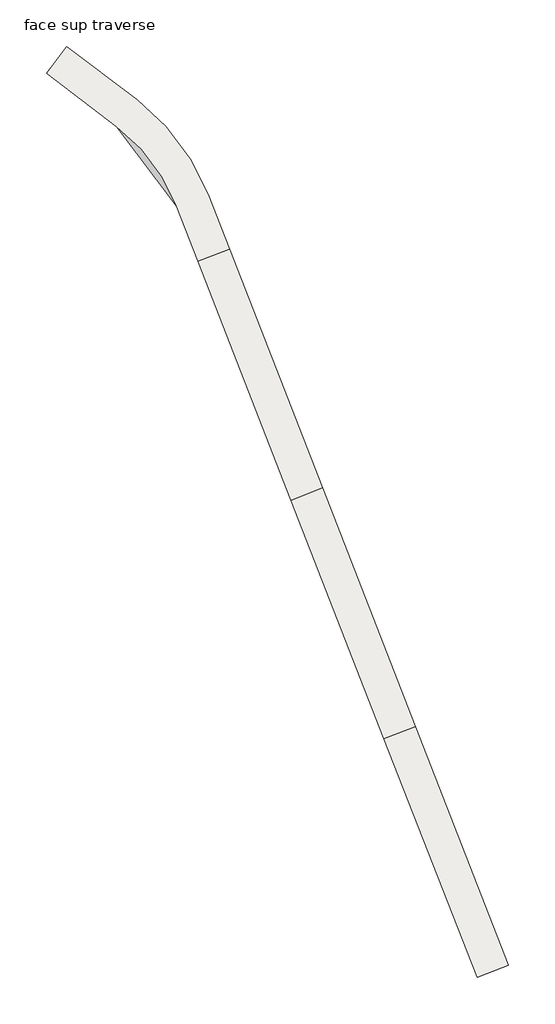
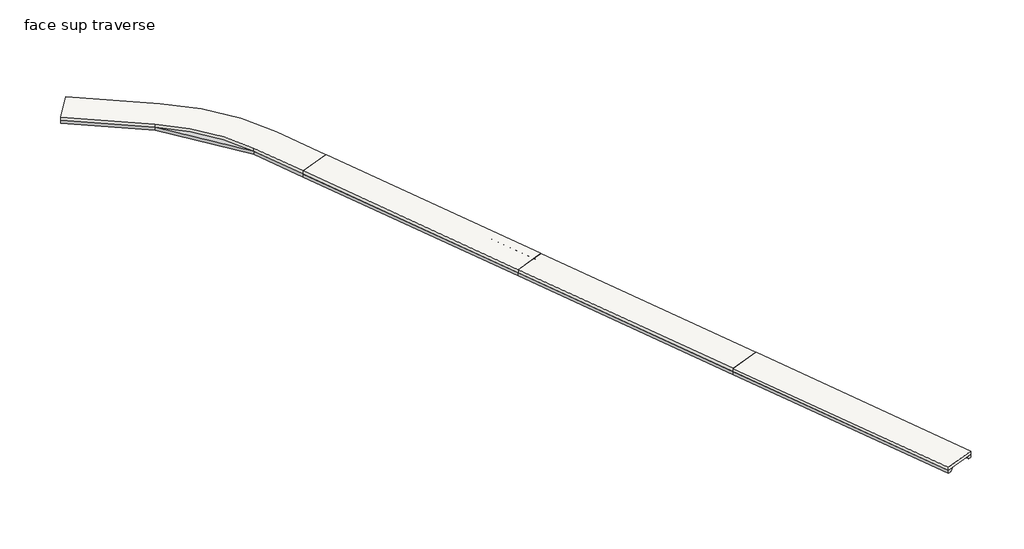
# One storey: 12 proxies, 4 slabs.
"""IFC4 building model written with IfcOpenShell, lengths in millimetres."""

import ifcopenshell
import ifcopenshell.guid

model = None  # the IFC model being written
_history = None  # IfcOwnerHistory: only IFC2X3 demands one
_inside = {}  # id of a spatial element -> (the spatial element, [elements in it])
_under = {}  # id of a project, library or spatial element -> (it, [spatial elements below it])
_declared = {}  # id of a project -> (the project, [libraries it declares])
_typed = {}  # id of a type object -> (the type object, [elements of that type])
_made_of = {}  # id of a material, layer set ... -> (it, [elements and type objects made of it])


def new_model(schema):
    """Start an empty IFC model of exactly this schema.

    Asked for "IFC4X3", IfcOpenShell would pick the latest addendum, in which some entities
    have other attributes; the version numbers below select the first issue.
    IFC2X3 requires an IfcOwnerHistory on every rooted entity: one is made here for all.
    """
    global model, _history
    if schema == "IFC4X3":
        model = ifcopenshell.file(schema_version=(4, 3, 0, 0))
    else:
        model = ifcopenshell.file(schema=schema)
    _inside.clear()
    _under.clear()
    _declared.clear()
    _typed.clear()
    _made_of.clear()
    _history = None
    if model.schema == "IFC2X3":
        org = make("IfcOrganization", Name="unknown")
        user = make(
            "IfcPersonAndOrganization",
            ThePerson=make("IfcPerson", FamilyName="unknown"),
            TheOrganization=org,
        )
        app = make(
            "IfcApplication",
            ApplicationDeveloper=org,
            Version="unknown",
            ApplicationFullName="unknown",
            ApplicationIdentifier="unknown",
        )
        _history = make(
            "IfcOwnerHistory",
            OwningUser=user,
            OwningApplication=app,
            ChangeAction="ADDED",
            CreationDate=0,
        )
    return model


def make(cls, **values):
    """One entity of the class cls with the attributes given. An attribute that is None is left unset."""
    return model.create_entity(
        cls, **{name: value for name, value in values.items() if value is not None}
    )


def rooted(cls, **values):
    """An entity with a GlobalId (a new one), such as an element, a storey or a relation."""
    return make(cls, GlobalId=ifcopenshell.guid.new(), OwnerHistory=_history, **values)


def si_unit(unit_type, name, prefix=None):
    """IfcSIUnit, for example si_unit("LENGTHUNIT", "METRE", prefix="MILLI")."""
    return make("IfcSIUnit", UnitType=unit_type, Prefix=prefix, Name=name)


def assignment(units):
    """IfcUnitAssignment: the units of a project."""
    return None if units is None else make("IfcUnitAssignment", Units=units)


def point(xyz):
    """IfcCartesianPoint."""
    return None if xyz is None else make("IfcCartesianPoint", Coordinates=xyz)


def direction(xyz):
    """IfcDirection."""
    return None if xyz is None else make("IfcDirection", DirectionRatios=xyz)


def frame(location, z_axis=None, x_axis=None):
    """IfcAxis2Placement3D, a coordinate frame: its origin and axes. An axis left out is left unset."""
    return make(
        "IfcAxis2Placement3D",
        Location=point(location),
        Axis=direction(z_axis),
        RefDirection=direction(x_axis),
    )


def frame_2d(location, x_axis=None):
    """IfcAxis2Placement2D, a coordinate frame in the plane: its origin and x axis."""
    return make(
        "IfcAxis2Placement2D", Location=point(location), RefDirection=direction(x_axis)
    )


def origin():
    """The frame at (0, 0, 0) with its axes left unset."""
    return frame((0.0, 0.0, 0.0))


def place(relative_to, where):
    """IfcLocalPlacement: puts the frame where relative to a parent placement (None: the world)."""
    return make(
        "IfcLocalPlacement", PlacementRelTo=relative_to, RelativePlacement=where
    )


def context(
    kind, dimensions, precision=None, world=None, true_north=None, identifier=None
):
    """IfcGeometricRepresentationContext, for example the 3D "Model" context."""
    return make(
        "IfcGeometricRepresentationContext",
        ContextIdentifier=identifier,
        ContextType=kind,
        CoordinateSpaceDimension=dimensions,
        Precision=precision,
        WorldCoordinateSystem=world,
        TrueNorth=true_north,
    )


def project(units=None, contexts=None):
    """IfcProject with its units and contexts."""
    return rooted(
        "IfcProject",
        Name="project",
        RepresentationContexts=contexts,
        UnitsInContext=assignment(units),
    )


def spatial(cls, under=None, at=None, **own):
    """A site, building, storey or space (cls), placed at a placement, below another one or the project."""
    s = rooted(cls, ObjectPlacement=at, **own)
    if under is not None:
        _under.setdefault(under.id(), (under, []))[1].append(s)
    return s


def polyline(points):
    """IfcPolyline through the points."""
    return make("IfcPolyline", Points=[point(p) for p in points])


def circle_curve(where, radius):
    """IfcCircle in the frame where."""
    return make("IfcCircle", Position=where, Radius=radius)


def trimmed(basis, trim1, trim2, sense, master):
    """IfcTrimmedCurve: the piece of a basis curve between two trims."""
    return make(
        "IfcTrimmedCurve",
        BasisCurve=basis,
        Trim1=trim1,
        Trim2=trim2,
        SenseAgreement=sense,
        MasterRepresentation=master,
    )


def segment(curve, same_sense, transition):
    """IfcCompositeCurveSegment."""
    return make(
        "IfcCompositeCurveSegment",
        Transition=transition,
        SameSense=same_sense,
        ParentCurve=curve,
    )


def composite_curve(segments, self_intersect=None):
    """IfcCompositeCurve: segments joined end to end."""
    return make("IfcCompositeCurve", Segments=segments, SelfIntersect=self_intersect)


def outline(outer, holes=None, kind="AREA"):
    """IfcArbitraryClosedProfileDef: a profile drawn as a closed curve; with holes, ...WithVoids."""
    if holes is None:
        return make("IfcArbitraryClosedProfileDef", ProfileType=kind, OuterCurve=outer)
    return make(
        "IfcArbitraryProfileDefWithVoids",
        ProfileType=kind,
        OuterCurve=outer,
        InnerCurves=holes,
    )


def extrude(swept, where, along, depth):
    """IfcExtrudedAreaSolid: the profile swept, set in the frame where, extruded along a direction by depth."""
    return make(
        "IfcExtrudedAreaSolid",
        SweptArea=swept,
        Position=where,
        ExtrudedDirection=direction(along),
        Depth=depth,
    )


def shape(context_of_items, identifier, shape_type, items):
    """IfcShapeRepresentation: the items that make up one representation, for example the "Body"."""
    return make(
        "IfcShapeRepresentation",
        ContextOfItems=context_of_items,
        RepresentationIdentifier=identifier,
        RepresentationType=shape_type,
        Items=items,
    )


def source(mapping_origin, context_of_items, identifier, shape_type, items):
    """IfcRepresentationMap: a shape defined once, which mapped items show again and again."""
    return make(
        "IfcRepresentationMap",
        MappingOrigin=mapping_origin,
        MappedRepresentation=shape(context_of_items, identifier, shape_type, items),
    )


def transform(
    local_origin,
    x_axis=None,
    y_axis=None,
    z_axis=None,
    scale=None,
    scale2=None,
    scale3=None,
    uniform=True,
):
    """IfcCartesianTransformationOperator3D, or its non-uniform kind. x_axis, y_axis, z_axis: its Axis1, 2, 3."""
    if uniform:
        return make(
            "IfcCartesianTransformationOperator3D",
            Axis1=direction(x_axis),
            Axis2=direction(y_axis),
            LocalOrigin=point(local_origin),
            Scale=scale,
            Axis3=direction(z_axis),
        )
    return make(
        "IfcCartesianTransformationOperator3DnonUniform",
        Axis1=direction(x_axis),
        Axis2=direction(y_axis),
        LocalOrigin=point(local_origin),
        Scale=scale,
        Axis3=direction(z_axis),
        Scale2=scale2,
        Scale3=scale3,
    )


def mapped(mapping_source, mapping_target):
    """IfcMappedItem: shows the shape of a source again, moved by a transform."""
    return make(
        "IfcMappedItem", MappingSource=mapping_source, MappingTarget=mapping_target
    )


def made_of(thing, what):
    """Note that an element or type object is made of a material, layer set ...; save() writes the relation."""
    if what is not None:
        _made_of.setdefault(what.id(), (what, []))[1].append(thing)
    return thing


def element(
    cls,
    number,
    at=None,
    inside=None,
    cuts=None,
    type_object=None,
    material=None,
    context=None,
    identifier="Body",
    shape_type=None,
    held_by="IfcProductDefinitionShape",
    body=None,
    shapes=None,
    **own,
):
    """One element of the class cls, such as IfcWall. Its Tag is "e" and its number.

    at: its placement. inside: the storey or other place that contains it. cuts: it is an
    opening in that element (IfcRelVoidsElement). A single representation is given by context,
    identifier, shape_type and body (its items); several are given by shapes. held_by: the class
    of the entity that holds the representations. save() writes the other relations.
    """
    e = rooted(cls, Tag="e%d" % number, ObjectPlacement=at, **own)
    if body is not None:
        shapes = [shape(context, identifier, shape_type, body)]
    if shapes is not None:
        e.Representation = make(held_by, Representations=shapes)
    if inside is not None:
        _inside.setdefault(inside.id(), (inside, []))[1].append(e)
    if cuts is not None:
        rooted(
            "IfcRelVoidsElement", RelatingBuildingElement=cuts, RelatedOpeningElement=e
        )
    if type_object is not None:
        _typed.setdefault(type_object.id(), (type_object, []))[1].append(e)
    return made_of(e, material)


def aggregate(whole, parts):
    """IfcRelAggregates: a whole, such as a stair, and the parts it consists of."""
    return rooted("IfcRelAggregates", RelatingObject=whole, RelatedObjects=parts)


def save(model, path):
    """Write the relations noted so far, then the file.

    IfcRelAggregates (storeys below a building ...), IfcRelContainedInSpatialStructure (elements
    in a storey), IfcRelDefinesByType, IfcRelAssociatesMaterial and IfcRelDeclares: one each for
    every whole, place, type object, material and project.
    """
    for whole, parts in _under.values():
        aggregate(whole, parts)
    for where, things in _inside.values():
        rooted(
            "IfcRelContainedInSpatialStructure",
            RelatedElements=things,
            RelatingStructure=where,
        )
    for kind, things in _typed.values():
        rooted("IfcRelDefinesByType", RelatedObjects=things, RelatingType=kind)
    for what, things in _made_of.values():
        rooted("IfcRelAssociatesMaterial", RelatedObjects=things, RelatingMaterial=what)
    for by, libraries in _declared.values():
        rooted("IfcRelDeclares", RelatingContext=by, RelatedDefinitions=libraries)
    model.write(path)


def plane_surface(at):
    """IfcPlane: the flat surface through the origin of the frame at, square to its z axis."""
    return make("IfcPlane", Position=at)


def cylinder_surface(at, radius):
    """IfcCylindricalSurface: all points at the distance radius from the z axis of the frame at."""
    return make("IfcCylindricalSurface", Position=at, Radius=radius)


def revolved_surface(curve, axis_point, axis_direction):
    """IfcSurfaceOfRevolution: the curve turned about the line through axis_point along axis_direction."""
    return make(
        "IfcSurfaceOfRevolution",
        SweptCurve=make("IfcArbitraryOpenProfileDef", ProfileType="CURVE", Curve=curve),
        AxisPosition=make("IfcAxis1Placement", Location=point(axis_point), Axis=direction(axis_direction)),
    )


def advanced_brep(points, edges, surfaces, faces):
    """IfcAdvancedBrep: a solid bounded by faces that lie on surfaces and meet in shared edges.

    An edge is (start, end): straight between two places in points (the first is 0);
    or (start, end, curve); or (start, end, curve, False) where it runs against its curve.
    A face is (place in surfaces, loops), or (place, loops, False) where it looks against
    its surface's normal. A loop lists edges by number (the first is 1), with a minus sign
    where the edge is run from its end to its start. The first loop is the outer one.
    """
    corners = [point(p) for p in points]
    vertices = [make("IfcVertexPoint", VertexGeometry=c) for c in corners]
    made = []
    for start, end, *more in edges:
        made.append(
            make(
                "IfcEdgeCurve",
                EdgeStart=vertices[start],
                EdgeEnd=vertices[end],
                EdgeGeometry=more[0] if more else make("IfcPolyline", Points=[corners[start], corners[end]]),
                SameSense=more[1] if len(more) > 1 else True,
            )
        )
    hull = []
    for where, loops, *sense in faces:
        bounds = []
        for j, loop in enumerate(loops):
            ring = [make("IfcOrientedEdge", EdgeElement=made[abs(k) - 1], Orientation=k > 0) for k in loop]
            bounds.append(
                make(
                    "IfcFaceOuterBound" if j == 0 else "IfcFaceBound",
                    Bound=make("IfcEdgeLoop", EdgeList=ring),
                    Orientation=True,
                )
            )
        hull.append(make("IfcAdvancedFace", Bounds=bounds, FaceSurface=surfaces[where], SameSense=sense[0] if sense else True))
    return make("IfcAdvancedBrep", Outer=make("IfcClosedShell", CfsFaces=hull))


def generic_models_11dc793a(model_context):
    return source(origin(), model_context, "Body", "AdvancedBrep", [
        advanced_brep(
        [(18325.0, 0.0, -350.0), (18325.0, 0.0, -700.0), (18675.0, 0.0, -700.0), (19025.0, 0.0, -350.0), (15634.3154742, 9558.9646225, -350.0), (15634.3154742, 9558.9646225, -700.0), (15932.924501, 9741.5369345, -700.0), (16231.5335278, 9924.1092466, -350.0)],
        [
            (0, 1),
            (1, 2),
            (2, 3),
            (3, 0),
            (0, 4, circle_curve(frame((0.0, 0.0, -350.0), z_axis=(0.0, 0.0, 1.0), x_axis=(1.0, 0.0, 0.0)), 18325.0)),
            (4, 5),
            (5, 1, circle_curve(frame((0.0, 0.0, -700.0), z_axis=(0.0, 0.0, -1.0), x_axis=(1.0, 0.0, 0.0)), 18325.0)),
            (5, 6),
            (6, 2, circle_curve(frame((0.0, 0.0, -700.0), z_axis=(0.0, 0.0, -1.0), x_axis=(1.0, 0.0, 0.0)), 18675.0)),
            (6, 7),
            (7, 3, circle_curve(frame((0.0, 0.0, -350.0), z_axis=(0.0, 0.0, -1.0), x_axis=(1.0, 0.0, 0.0)), 19025.0)),
            (7, 4),
        ],
        [
            plane_surface(frame((0.0, 0.0, 1500.0), z_axis=(0.0, -1.0, 0.0), x_axis=(1.0, 0.0, 0.0))),
            revolved_surface(polyline([(18325.0, 0.0, -350.0), (18325.0, 0.0, -700.0)]), (0.0, 0.0, 1500.0), (0.0, 0.0, 1.0)),
            plane_surface(frame((0.0, 0.0, -700.0), z_axis=(0.0, 0.0, -1.0), x_axis=(1.0, 0.0, 0.0))),
            revolved_surface(polyline([(18675.0, 0.0, -700.0), (19025.0, 0.0, -350.0)]), (0.0, 0.0, 1500.0), (0.0, 0.0, 1.0)),
            plane_surface(frame((0.0, 0.0, -350.0), z_axis=(0.0, 0.0, 1.0), x_axis=(1.0, 0.0, 0.0))),
            plane_surface(frame((0.0, 0.0, -350.0), z_axis=(-0.5216351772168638, 0.853168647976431, 0.0), x_axis=(0.0, 0.0, -1.0))),
        ],
        [
            (0, [[1, 2, 3, 4]]),
            (1, [[-1, 5, 6, 7]]),
            (2, [[-2, -7, 8, 9]]),
            (3, [[-3, -9, 10, 11]]),
            (4, [[-4, -11, 12, -5]]),
            (5, [[-6, -12, -10, -8]]),
        ],
    ),
    ])


def generic_models_7486e4d8(model_context):
    return source(origin(), model_context, "Body", "AdvancedBrep", [
        advanced_brep(
        [(21665.0, 0.0, -350.0), (20965.0, 0.0, -350.0), (21315.0, 0.0, -700.0), (21665.0, 0.0, -700.0), (18483.8987584, 11301.2261144, -700.0), (18483.8987584, 11301.2261144, -350.0), (18185.2897316, 11118.6538024, -700.0), (17886.6807048, 10936.0814904, -350.0)],
        [
            (0, 1),
            (1, 2),
            (2, 3),
            (3, 0),
            (3, 4, circle_curve(frame((0.0, 0.0, -700.0), z_axis=(0.0, 0.0, 1.0), x_axis=(1.0, 0.0, 0.0)), 21665.0)),
            (4, 5),
            (5, 0, circle_curve(frame((0.0, 0.0, -350.0), z_axis=(0.0, 0.0, -1.0), x_axis=(1.0, 0.0, 0.0)), 21665.0)),
            (2, 6, circle_curve(frame((0.0, 0.0, -700.0), z_axis=(0.0, 0.0, 1.0), x_axis=(1.0, 0.0, 0.0)), 21315.0)),
            (6, 4),
            (1, 7, circle_curve(frame((0.0, 0.0, -350.0), z_axis=(0.0, 0.0, 1.0), x_axis=(1.0, 0.0, 0.0)), 20965.0)),
            (7, 6),
            (5, 7),
        ],
        [
            plane_surface(frame((0.0, 0.0, 1500.0), z_axis=(0.0, -1.0, 0.0), x_axis=(1.0, 0.0, 0.0))),
            cylinder_surface(frame((0.0, 0.0, 1500.0), z_axis=(0.0, 0.0, 1.0), x_axis=(1.0, 0.0, 0.0)), 21665.0),
            plane_surface(frame((0.0, 0.0, -700.0), z_axis=(0.0, 0.0, -1.0), x_axis=(1.0, 0.0, 0.0))),
            revolved_surface(polyline([(20965.0, 0.0, -350.0), (21315.0, 0.0, -700.0)]), (0.0, 0.0, 1500.0), (0.0, 0.0, 1.0)),
            plane_surface(frame((0.0, 0.0, -350.0), z_axis=(0.0, 0.0, 1.0), x_axis=(1.0, 0.0, 0.0))),
            plane_surface(frame((0.0, 0.0, -350.0), z_axis=(-0.5216351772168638, 0.853168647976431, 0.0), x_axis=(0.0, 0.0, -1.0))),
        ],
        [
            (0, [[1, 2, 3, 4]]),
            (1, [[-4, 5, 6, 7]]),
            (2, [[-3, 8, 9, -5]]),
            (3, [[-2, 10, 11, -8]]),
            (4, [[-1, -7, 12, -10]]),
            (5, [[-6, -9, -11, -12]]),
        ],
    ),
    ])


def generic_models_39ab5bcd(model_context):
    return source(origin(), model_context, "Body", "SweptSolid", [
        extrude(outline(polyline([(0.0, -350.0), (0.0, -700.0), (-350.0, -700.0), (-700.0, -350.0), (0.0, -350.0)])), frame((0.0, 0.0, 0.0), z_axis=(1.0, 0.0, 0.0), x_axis=(0.0, 1.0, 0.0)), (0.0, 0.0, 1.0), 25500.0),
    ])


def generic_models_48085c64(model_context):
    return source(origin(), model_context, "Body", "SweptSolid", [
        extrude(outline(polyline([(0.0, -350.0), (700.0, -350.0), (350.0, -700.0), (0.0, -700.0), (0.0, -350.0)])), frame((0.0, 0.0, 0.0), z_axis=(1.0, 0.0, 0.0), x_axis=(0.0, 1.0, 0.0)), (0.0, 0.0, 1.0), 25500.0),
    ])


def generic_models_697e8544(model_context):
    return source(origin(), model_context, "Body", "SweptSolid", [
        extrude(outline(polyline([(0.0, -350.0), (0.0, -700.0), (-350.0, -700.0), (-700.0, -350.0), (0.0, -350.0)])), frame((0.0, 0.0, 0.0), z_axis=(1.0, 0.0, 0.0), x_axis=(0.0, 1.0, 0.0)), (0.0, 0.0, 1.0), 5872.9592015),
    ])


def generic_models_bdcf9df0(model_context):
    return source(origin(), model_context, "Body", "SweptSolid", [
        extrude(outline(polyline([(0.0, -350.0), (700.0, -350.0), (350.0, -700.0), (0.0, -700.0), (0.0, -350.0)])), frame((0.0, 0.0, 0.0), z_axis=(1.0, 0.0, 0.0), x_axis=(0.0, 1.0, 0.0)), (0.0, 0.0, 1.0), 5873.5479057),
    ])


def generic_models_537f49c0(model_context):
    return source(origin(), model_context, "Body", "SweptSolid", [
        extrude(outline(polyline([(0.0, -350.0), (0.0, -700.0), (-350.0, -700.0), (-700.0, -350.0), (0.0, -350.0)])), frame((0.0, 0.0, 0.0), z_axis=(1.0, 0.0, 0.0), x_axis=(0.0, 1.0, 0.0)), (0.0, 0.0, 1.0), 8785.0),
    ])


def generic_models_c98ec642(model_context):
    return source(origin(), model_context, "Body", "SweptSolid", [
        extrude(outline(polyline([(0.0, -350.0), (700.0, -350.0), (350.0, -700.0), (0.0, -700.0), (0.0, -350.0)])), frame((0.0, 0.0, 0.0), z_axis=(1.0, 0.0, 0.0), x_axis=(0.0, 1.0, 0.0)), (0.0, 0.0, 1.0), 8785.0),
    ])


model = new_model("IFC4")

# Units and contexts
model_context = context("Model", 3, world=origin())
ifc_project = project(units=[si_unit("LENGTHUNIT", "METRE", prefix="MILLI")], contexts=[model_context])

# Site, building, storey
site = spatial("IfcSite", under=ifc_project)
building = spatial("IfcBuilding", under=site)
storey = spatial("IfcBuildingStorey", under=building, Name="face sup traverse", Elevation=3350.0)

# Proxies
placement = place(None, origin())
generic_models_shape = generic_models_11dc793a(model_context)
element("IfcBuildingElementProxy", 1, Name="Gousset traverse courbe ext ou int : Gousset traverse courbe - côté intérieur", ObjectType="Gousset traverse courbe ext ou int : Gousset traverse courbe - côté intérieur", at=placement, inside=storey, context=model_context, shape_type="MappedRepresentation", body=[
    mapped(generic_models_shape, transform((199.3165241, -25275.899501, 3350.0), x_axis=(0.9317223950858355, 0.36317127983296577, 0.0), y_axis=(-0.36317127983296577, 0.9317223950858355, 0.0), z_axis=(0.0, 0.0, 1.0))),
])
generic_models_2_shape = generic_models_7486e4d8(model_context)
element("IfcBuildingElementProxy", 2, Name="Gousset traverse courbe ext ou int : Gousset traverse courbe - coté extérieur", ObjectType="Gousset traverse courbe ext ou int : Gousset traverse courbe - coté extérieur", at=placement, inside=storey, context=model_context, shape_type="MappedRepresentation", body=[
    mapped(generic_models_2_shape, transform((199.316329, -25275.8995192, 3350.0), x_axis=(0.9317075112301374, 0.3632094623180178, 0.0), y_axis=(-0.3632094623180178, 0.9317075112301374, 0.0), z_axis=(0.0, 0.0, 1.0))),
])
generic_models_3_shape = generic_models_39ab5bcd(model_context)
element("IfcBuildingElementProxy", 3, Name="Gousset traverse bord droit : Gousset traverse bord droit", ObjectType="Gousset traverse bord droit : Gousset traverse bord droit", at=placement, inside=storey, context=model_context, shape_type="MappedRepresentation", body=[
    mapped(generic_models_3_shape, transform((22537.7386278, -22896.7774592, 3350.0), x_axis=(0.363288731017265, -0.9316766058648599, 0.0), y_axis=(0.9316766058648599, 0.363288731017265, 0.0), z_axis=(0.0, 0.0, 1.0))),
])
element("IfcBuildingElementProxy", 4, Name="Gousset traverse bord droit : Gousset traverse bord droit", ObjectType="Gousset traverse bord droit : Gousset traverse bord droit", at=placement, inside=storey, context=model_context, shape_type="MappedRepresentation", body=[
    mapped(generic_models_3_shape, transform((31809.7166896, -46672.8331252, 3350.0), x_axis=(0.363288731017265, -0.9316766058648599, 0.0), y_axis=(0.9316766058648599, 0.363288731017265, 0.0), z_axis=(0.0, 0.0, 1.0))),
])
element("IfcBuildingElementProxy", 5, Name="Gousset traverse bord droit : Gousset traverse bord droit", ObjectType="Gousset traverse bord droit : Gousset traverse bord droit", at=placement, inside=storey, context=model_context, shape_type="MappedRepresentation", body=[
    mapped(generic_models_3_shape, transform((41081.6947513, -70448.8887913, 3350.0), x_axis=(0.363288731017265, -0.9316766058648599, 0.0), y_axis=(0.9316766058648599, 0.363288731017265, 0.0), z_axis=(0.0, 0.0, 1.0))),
])
generic_models_4_shape = generic_models_48085c64(model_context)
element("IfcBuildingElementProxy", 6, Name="Gousset traverse bord droit : Gousset traverse bord droit", ObjectType="Gousset traverse bord droit : Gousset traverse bord droit", at=placement, inside=storey, context=model_context, shape_type="MappedRepresentation", body=[
    mapped(generic_models_4_shape, transform((19414.9670882, -24114.5685686, 3350.0), x_axis=(0.3633553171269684, -0.9316506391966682, 0.0), y_axis=(0.9316506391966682, 0.3633553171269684, 0.0), z_axis=(0.0, 0.0, 1.0))),
])
element("IfcBuildingElementProxy", 7, Name="Gousset traverse bord droit : Gousset traverse bord droit", ObjectType="Gousset traverse bord droit : Gousset traverse bord droit", at=placement, inside=storey, context=model_context, shape_type="MappedRepresentation", body=[
    mapped(generic_models_4_shape, transform((28686.9451499, -47890.6242347, 3350.0), x_axis=(0.3633553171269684, -0.9316506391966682, 0.0), y_axis=(0.9316506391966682, 0.3633553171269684, 0.0), z_axis=(0.0, 0.0, 1.0))),
])
element("IfcBuildingElementProxy", 8, Name="Gousset traverse bord droit : Gousset traverse bord droit", ObjectType="Gousset traverse bord droit : Gousset traverse bord droit", at=placement, inside=storey, context=model_context, shape_type="MappedRepresentation", body=[
    mapped(generic_models_4_shape, transform((37958.9232117, -71666.6799007, 3350.0), x_axis=(0.3633553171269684, -0.9316506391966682, 0.0), y_axis=(0.9316506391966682, 0.3633553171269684, 0.0), z_axis=(0.0, 0.0, 1.0))),
])
generic_models_5_shape = generic_models_697e8544(model_context)
element("IfcBuildingElementProxy", 9, Name="Gousset traverse bord droit : Gousset traverse bord droit", ObjectType="Gousset traverse bord droit : Gousset traverse bord droit", at=placement, inside=storey, context=model_context, shape_type="MappedRepresentation", body=[
    mapped(generic_models_5_shape, transform((20397.6941603, -17406.4788956, 3350.0), x_axis=(0.3618006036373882, -0.9322555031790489, 0.0), y_axis=(0.9322555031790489, 0.3618006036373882, 0.0), z_axis=(0.0, 0.0, 1.0))),
])
generic_models_6_shape = generic_models_bdcf9df0(model_context)
element("IfcBuildingElementProxy", 10, Name="Gousset traverse bord droit : Gousset traverse bord droit", ObjectType="Gousset traverse bord droit : Gousset traverse bord droit", at=placement, inside=storey, context=model_context, shape_type="MappedRepresentation", body=[
    mapped(generic_models_6_shape, transform((17281.6908696, -18620.3956026, 3350.0), x_axis=(0.363322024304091, -0.9316636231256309, 0.0), y_axis=(0.9316636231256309, 0.363322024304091, 0.0), z_axis=(0.0, 0.0, 1.0))),
])
generic_models_7_shape = generic_models_537f49c0(model_context)
element("IfcBuildingElementProxy", 11, Name="Gousset traverse bord droit : Gousset traverse bord droit", ObjectType="Gousset traverse bord droit : Gousset traverse bord droit", at=placement, inside=storey, context=model_context, shape_type="MappedRepresentation", body=[
    mapped(generic_models_7_shape, transform((6328.9008819, -2708.8061228, 3350.0), x_axis=(0.7959685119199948, -0.6053380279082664, 0.0), y_axis=(0.6053380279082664, 0.7959685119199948, 0.0), z_axis=(0.0, 0.0, 1.0))),
])
generic_models_8_shape = generic_models_c98ec642(model_context)
element("IfcBuildingElementProxy", 12, Name="Gousset traverse bord droit : Gousset traverse bord droit", ObjectType="Gousset traverse bord droit : Gousset traverse bord droit", at=placement, inside=storey, context=model_context, shape_type="MappedRepresentation", body=[
    mapped(generic_models_8_shape, transform((4301.0184884, -5375.3006377, 3350.0), x_axis=(0.7959685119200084, -0.6053380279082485, 0.0), y_axis=(0.6053380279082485, 0.7959685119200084, 0.0), z_axis=(0.0, 0.0, 1.0))),
])

# Slabs
element("IfcSlab", 13, ObjectType="Dalle en béton - 350 mm", at=placement, inside=storey, context=model_context, shape_type="SweptSolid", body=[
    extrude(outline(polyline([(22537.7386278, -22896.7774592), (31802.4502481, -46654.1998502), (28679.6787084, -47871.9909596), (19414.9670882, -24114.5685686), (22537.7386278, -22896.7774592)])), frame((0.0, 0.0, 3000.0), z_axis=(0.0, 0.0, 1.0), x_axis=(1.0, 0.0, 0.0)), (0.0, 0.0, 1.0), 350.0),
])
element("IfcSlab", 14, ObjectType="Dalle en béton - 350 mm", at=placement, inside=storey, context=model_context, shape_type="SweptSolid", body=[
    extrude(outline(polyline([(31809.7166896, -46672.8331252), (41074.4283098, -70430.2555162), (37951.6567702, -71648.0466256), (28686.9451499, -47890.6242347), (31809.7166896, -46672.8331252)])), frame((0.0, 0.0, 3000.0), z_axis=(0.0, 0.0, 1.0), x_axis=(1.0, 0.0, 0.0)), (0.0, 0.0, 1.0), 350.0),
])
element("IfcSlab", 15, ObjectType="Dalle en béton - 350 mm", at=placement, inside=storey, context=model_context, shape_type="SweptSolid", body=[
    extrude(outline(composite_curve([segment(trimmed(circle_curve(frame_2d((191.4283658, -25288.637242)), 21687.3492446), [point((13321.0417842, -8027.2824649))], [point((20394.3224534, -17402.9421082))], False, "CARTESIAN"), True, "CONTINUOUS"), segment(polyline([(20394.3224534, -17402.9421082), (22530.3852007, -22877.9211277), (19407.6136611, -24095.7122372), (17272.3131366, -18620.1789911)]), True, "CONTINUOUS"), segment(trimmed(circle_curve(frame_2d((203.5197493, -25275.7189471)), 18320.4781544), [point((17272.3131366, -18620.1789911))], [point((11293.6018656, -10693.1952129))], True, "CARTESIAN"), True, "CONTINUOUS"), segment(polyline([(11293.6018656, -10693.1952129), (4301.0184884, -5375.3006377), (6328.9008819, -2708.8061228), (13321.0417842, -8027.2824649)]), True, "CONTINUOUS")], self_intersect=False)), frame((0.0, 0.0, 3000.0), z_axis=(0.0, 0.0, 1.0), x_axis=(1.0, 0.0, 0.0)), (0.0, 0.0, 1.0), 350.0),
])
element("IfcSlab", 16, ObjectType="Dalle en béton - 350 mm", at=placement, inside=storey, context=model_context, shape_type="SweptSolid", body=[
    extrude(outline(polyline([(41081.6947513, -70448.8887913), (50346.4063716, -94206.3111822), (47223.6348319, -95424.1022917), (37958.9232117, -71666.6799007), (41081.6947513, -70448.8887913)])), frame((0.0, 0.0, 3000.0), z_axis=(0.0, 0.0, 1.0), x_axis=(1.0, 0.0, 0.0)), (0.0, 0.0, 1.0), 350.0),
])

save(model, "model.ifc")
